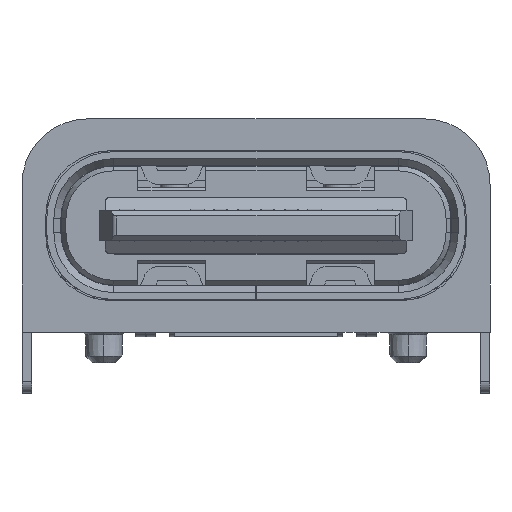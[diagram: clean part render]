
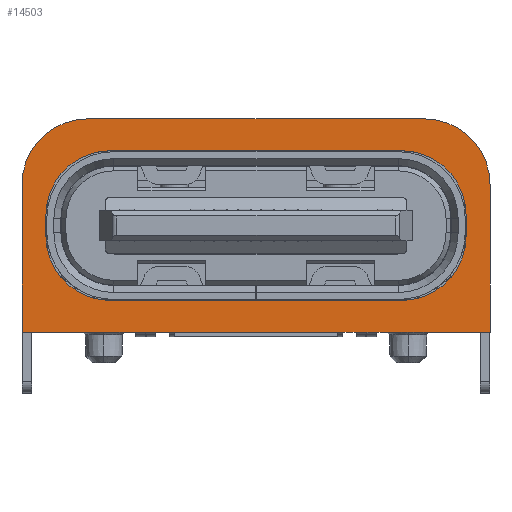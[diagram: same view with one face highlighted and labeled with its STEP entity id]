
A CAD part, front view. The second image highlights one B-rep face of the part: STEP entity #14503.
In plain terms, the highlighted planar face has unit normal (0, -1, 0).
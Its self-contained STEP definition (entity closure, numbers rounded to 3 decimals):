
#8 = CIRCLE ( 'NONE', #4603, 1.4 ) ;
#190 = DIRECTION ( 'NONE',  ( 0., 0., 1. ) ) ;
#221 = CARTESIAN_POINT ( 'NONE',  ( -3.11, 1.2, 0.98 ) ) ;
#288 = CARTESIAN_POINT ( 'NONE',  ( -3.6, 1.2, 3.46 ) ) ;
#351 = VERTEX_POINT ( 'NONE', #22638 ) ;
#371 = ORIENTED_EDGE ( 'NONE', *, *, #22429, .F. ) ;
#794 = CARTESIAN_POINT ( 'NONE',  ( -4.49, 1.2, 2.36 ) ) ;
#1002 = CIRCLE ( 'NONE', #13613, 1.38 ) ;
#1083 = CARTESIAN_POINT ( 'NONE',  ( 4.49, 1.2, 2.36 ) ) ;
#1153 = EDGE_CURVE ( 'NONE', #21573, #23260, #25262, .T. ) ;
#1252 = CARTESIAN_POINT ( 'NONE',  ( -3.6, 1.2, 4.86 ) ) ;
#1917 = LINE ( 'NONE', #27233, #19903 ) ;
#2872 = AXIS2_PLACEMENT_3D ( 'NONE', #4693, #10251, #21561 ) ;
#2920 = AXIS2_PLACEMENT_3D ( 'NONE', #16845, #17189, #22755 ) ;
#2961 = DIRECTION ( 'NONE',  ( 0., -1., 0. ) ) ;
#3545 = VECTOR ( 'NONE', #25185, 1000. ) ;
#3821 = ORIENTED_EDGE ( 'NONE', *, *, #6782, .F. ) ;
#3860 = VERTEX_POINT ( 'NONE', #4392 ) ;
#4324 = CARTESIAN_POINT ( 'NONE',  ( -4.49, 1.2, 2.8 ) ) ;
#4392 = CARTESIAN_POINT ( 'NONE',  ( 4.49, 1.2, 2.36 ) ) ;
#4423 = VECTOR ( 'NONE', #26869, 1000. ) ;
#4444 = CARTESIAN_POINT ( 'NONE',  ( 3.11, 1.2, 4.18 ) ) ;
#4603 = AXIS2_PLACEMENT_3D ( 'NONE', #288, #16639, #35499 ) ;
#4693 = CARTESIAN_POINT ( 'NONE',  ( -3.11, 1.2, 2.36 ) ) ;
#4890 = DIRECTION ( 'NONE',  ( 1., 0., 0. ) ) ;
#5666 = VECTOR ( 'NONE', #4890, 1000. ) ;
#5672 = CARTESIAN_POINT ( 'NONE',  ( -3.11, 1.2, 0.98 ) ) ;
#6260 = CARTESIAN_POINT ( 'NONE',  ( 0., 1.2, 0. ) ) ;
#6333 = ORIENTED_EDGE ( 'NONE', *, *, #18554, .F. ) ;
#6639 = LINE ( 'NONE', #1083, #3545 ) ;
#6782 = EDGE_CURVE ( 'NONE', #14560, #18231, #34605, .T. ) ;
#7048 = DIRECTION ( 'NONE',  ( -1., 0., 0. ) ) ;
#7953 = LINE ( 'NONE', #30068, #34286 ) ;
#8124 = LINE ( 'NONE', #221, #5666 ) ;
#8224 = CARTESIAN_POINT ( 'NONE',  ( 3.6, 1.2, 4.86 ) ) ;
#8576 = EDGE_CURVE ( 'NONE', #23260, #351, #13837, .T. ) ;
#8675 = DIRECTION ( 'NONE',  ( 0., 0., 1. ) ) ;
#8888 = CARTESIAN_POINT ( 'NONE',  ( 5., 1.2, 0.3 ) ) ;
#9309 = EDGE_CURVE ( 'NONE', #18231, #34036, #19605, .T. ) ;
#9435 = ORIENTED_EDGE ( 'NONE', *, *, #9309, .F. ) ;
#10251 = DIRECTION ( 'NONE',  ( 0., -1., 0. ) ) ;
#10457 = VERTEX_POINT ( 'NONE', #5672 ) ;
#11363 = CIRCLE ( 'NONE', #31444, 1.4 ) ;
#11844 = LINE ( 'NONE', #23348, #23024 ) ;
#12458 = ORIENTED_EDGE ( 'NONE', *, *, #28567, .F. ) ;
#12571 = CARTESIAN_POINT ( 'NONE',  ( 5., 1.2, 0.3 ) ) ;
#12582 = DIRECTION ( 'NONE',  ( 0., 1., 0. ) ) ;
#12620 = CIRCLE ( 'NONE', #2872, 1.38 ) ;
#12952 = ORIENTED_EDGE ( 'NONE', *, *, #14089, .F. ) ;
#13530 = ORIENTED_EDGE ( 'NONE', *, *, #8576, .F. ) ;
#13613 = AXIS2_PLACEMENT_3D ( 'NONE', #27583, #2961, #24893 ) ;
#13837 = LINE ( 'NONE', #14014, #17496 ) ;
#14014 = CARTESIAN_POINT ( 'NONE',  ( -5., 1.2, 0.3 ) ) ;
#14089 = EDGE_CURVE ( 'NONE', #33034, #20166, #11363, .T. ) ;
#14308 = ORIENTED_EDGE ( 'NONE', *, *, #24588, .F. ) ;
#14503 = ADVANCED_FACE ( 'NONE', ( #22619, #19907 ), #30871, .F. ) ;
#14560 = VERTEX_POINT ( 'NONE', #4444 ) ;
#14756 = DIRECTION ( 'NONE',  ( 0., -1., 0. ) ) ;
#16639 = DIRECTION ( 'NONE',  ( 0., 1., 0. ) ) ;
#16845 = CARTESIAN_POINT ( 'NONE',  ( 3.11, 1.2, 2.8 ) ) ;
#17189 = DIRECTION ( 'NONE',  ( 0., -1., 0. ) ) ;
#17496 = VECTOR ( 'NONE', #190, 1000. ) ;
#17669 = CARTESIAN_POINT ( 'NONE',  ( -5., 1.2, 0.3 ) ) ;
#18231 = VERTEX_POINT ( 'NONE', #30300 ) ;
#18412 = CIRCLE ( 'NONE', #2920, 1.38 ) ;
#18499 = ORIENTED_EDGE ( 'NONE', *, *, #27310, .F. ) ;
#18554 = EDGE_CURVE ( 'NONE', #3860, #27392, #6639, .T. ) ;
#19605 = CIRCLE ( 'NONE', #25368, 1.38 ) ;
#19855 = ORIENTED_EDGE ( 'NONE', *, *, #24948, .F. ) ;
#19903 = VECTOR ( 'NONE', #21660, 1000. ) ;
#19907 = FACE_BOUND ( 'NONE', #32156, .T. ) ;
#19994 = EDGE_LOOP ( 'NONE', ( #27710, #18499, #13530, #25782, #19855, #12952 ) ) ;
#20166 = VERTEX_POINT ( 'NONE', #20816 ) ;
#20467 = DIRECTION ( 'NONE',  ( 1., 0., 0. ) ) ;
#20781 = EDGE_CURVE ( 'NONE', #31376, #3860, #1002, .T. ) ;
#20816 = CARTESIAN_POINT ( 'NONE',  ( 5., 1.2, 3.46 ) ) ;
#21392 = DIRECTION ( 'NONE',  ( 0., 0., 1. ) ) ;
#21561 = DIRECTION ( 'NONE',  ( -1., 0., 0. ) ) ;
#21573 = VERTEX_POINT ( 'NONE', #12571 ) ;
#21660 = DIRECTION ( 'NONE',  ( 0., 0., -1. ) ) ;
#22268 = VERTEX_POINT ( 'NONE', #794 ) ;
#22429 = EDGE_CURVE ( 'NONE', #10457, #31376, #8124, .T. ) ;
#22619 = FACE_OUTER_BOUND ( 'NONE', #19994, .T. ) ;
#22638 = CARTESIAN_POINT ( 'NONE',  ( -5., 1.2, 3.46 ) ) ;
#22755 = DIRECTION ( 'NONE',  ( 1., 0., 0. ) ) ;
#23024 = VECTOR ( 'NONE', #20467, 1000. ) ;
#23260 = VERTEX_POINT ( 'NONE', #17669 ) ;
#23348 = CARTESIAN_POINT ( 'NONE',  ( -3.6, 1.2, 4.86 ) ) ;
#23659 = CARTESIAN_POINT ( 'NONE',  ( 3.11, 1.2, 4.18 ) ) ;
#23959 = VECTOR ( 'NONE', #7048, 1000. ) ;
#24039 = VERTEX_POINT ( 'NONE', #1252 ) ;
#24588 = EDGE_CURVE ( 'NONE', #34036, #22268, #1917, .T. ) ;
#24893 = DIRECTION ( 'NONE',  ( 0., 0., -1. ) ) ;
#24948 = EDGE_CURVE ( 'NONE', #20166, #21573, #7953, .T. ) ;
#25185 = DIRECTION ( 'NONE',  ( 0., 0., 1. ) ) ;
#25262 = LINE ( 'NONE', #8888, #23959 ) ;
#25368 = AXIS2_PLACEMENT_3D ( 'NONE', #33467, #14756, #8675 ) ;
#25665 = DIRECTION ( 'NONE',  ( 1., 0., 0. ) ) ;
#25782 = ORIENTED_EDGE ( 'NONE', *, *, #1153, .F. ) ;
#26016 = CARTESIAN_POINT ( 'NONE',  ( 3.11, 1.2, 0.98 ) ) ;
#26869 = DIRECTION ( 'NONE',  ( -1., 0., 0. ) ) ;
#27233 = CARTESIAN_POINT ( 'NONE',  ( -4.49, 1.2, 2.8 ) ) ;
#27310 = EDGE_CURVE ( 'NONE', #351, #24039, #8, .T. ) ;
#27376 = ORIENTED_EDGE ( 'NONE', *, *, #33111, .F. ) ;
#27392 = VERTEX_POINT ( 'NONE', #27948 ) ;
#27476 = AXIS2_PLACEMENT_3D ( 'NONE', #6260, #28191, #25665 ) ;
#27583 = CARTESIAN_POINT ( 'NONE',  ( 3.11, 1.2, 2.36 ) ) ;
#27710 = ORIENTED_EDGE ( 'NONE', *, *, #27815, .F. ) ;
#27815 = EDGE_CURVE ( 'NONE', #24039, #33034, #11844, .T. ) ;
#27948 = CARTESIAN_POINT ( 'NONE',  ( 4.49, 1.2, 2.8 ) ) ;
#28191 = DIRECTION ( 'NONE',  ( 0., 1., 0. ) ) ;
#28567 = EDGE_CURVE ( 'NONE', #22268, #10457, #12620, .T. ) ;
#30068 = CARTESIAN_POINT ( 'NONE',  ( 5., 1.2, 3.46 ) ) ;
#30300 = CARTESIAN_POINT ( 'NONE',  ( -3.11, 1.2, 4.18 ) ) ;
#30871 = PLANE ( 'NONE',  #27476 ) ;
#31012 = ORIENTED_EDGE ( 'NONE', *, *, #20781, .F. ) ;
#31376 = VERTEX_POINT ( 'NONE', #26016 ) ;
#31444 = AXIS2_PLACEMENT_3D ( 'NONE', #35036, #12582, #21392 ) ;
#32156 = EDGE_LOOP ( 'NONE', ( #3821, #27376, #6333, #31012, #371, #12458, #14308, #9435 ) ) ;
#33034 = VERTEX_POINT ( 'NONE', #8224 ) ;
#33111 = EDGE_CURVE ( 'NONE', #27392, #14560, #18412, .T. ) ;
#33284 = DIRECTION ( 'NONE',  ( 0., 0., -1. ) ) ;
#33467 = CARTESIAN_POINT ( 'NONE',  ( -3.11, 1.2, 2.8 ) ) ;
#34036 = VERTEX_POINT ( 'NONE', #4324 ) ;
#34286 = VECTOR ( 'NONE', #33284, 1000. ) ;
#34605 = LINE ( 'NONE', #23659, #4423 ) ;
#35036 = CARTESIAN_POINT ( 'NONE',  ( 3.6, 1.2, 3.46 ) ) ;
#35499 = DIRECTION ( 'NONE',  ( -1., 0., 0. ) ) ;
